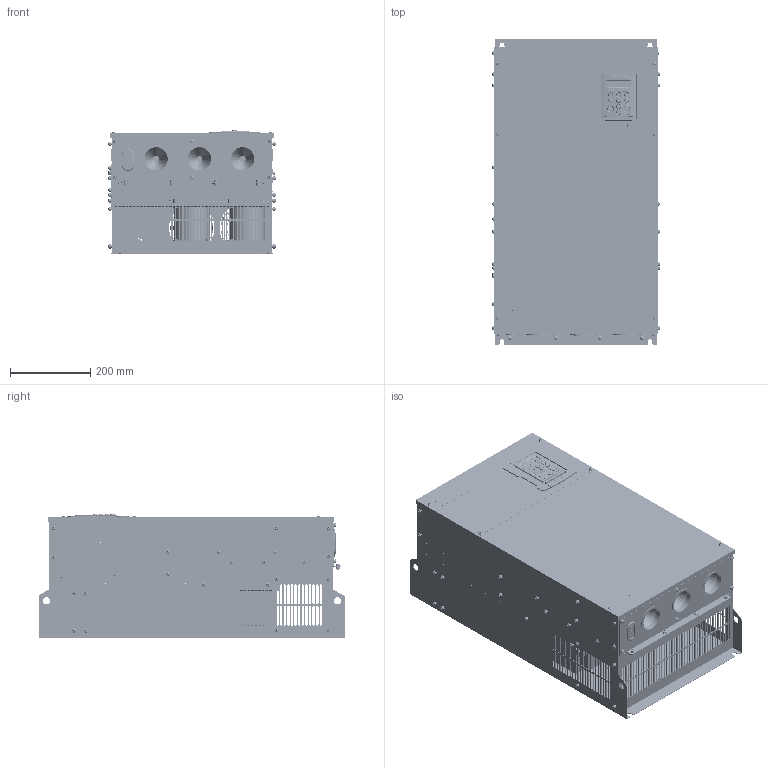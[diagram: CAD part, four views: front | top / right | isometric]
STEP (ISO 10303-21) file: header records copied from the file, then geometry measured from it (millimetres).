
FILE_DESCRIPTION(/* description */ ('','CAx-IF Rec.Pracs.---Representation and Presentation of Product Manufacturing Information (PMI)---4.0---2014-10-13'),/* implementation_level */ '2;1');
FILE_NAME(/* name */ 'C:\Users\943103\Desktop\Part234.stp',/* time_stamp */ '2023-09-25T21:11:02+01:00',/* author */ ('943103'),/* organization */ (''),/* preprocessor_version */ 'ST-DEVELOPER v18',/* originating_system */ 'Autodesk Inventor 2020',/* authorisation */ '');
FILE_SCHEMA (('AP242_MANAGED_MODEL_BASED_3D_ENGINEERING_MIM_LF { 1 0 10303 442 1 1 4 }'));
Products named in the file (1): Part234
Bounding box: 417.86 x 765 x 307.62 mm (x, y, z)
Surface area: 8857369.2 mm2 (no closed solid volume)
Topology: 0 solids, 1 shells, 22153 faces, 61973 edges, 41027 vertices
Faces by surface type: plane 14104, cylinder 3977, bspline 2852, cone 736, torus 367, sphere 117
Full cylindrical faces by diameter (mm): 0.6 x5, 0.994 x9, 1.4 x12, 1.45 x20, 1.5 x26, 1.888 x4, 2 x23, 2.18 x43, 2.2 x4, 2.5 x4, 2.8 x20, 2.9 x23, 3 x19, 3.091 x108, 3.1 x6, 3.2 x3, 3.5 x5, 3.68 x6, 4 x327, 4.064 x2, 4.2 x12, 4.334 x8, 4.4 x6, 4.5 x6, 4.6 x64, 4.8 x1, 5 x171, 5.4 x4, 5.5 x95, 5.841 x10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
Entity records: 930571 total; most frequent: CARTESIAN_POINT 336114, ORIENTED_EDGE 124032, DIRECTION 111097, EDGE_CURVE 62016, LINE 41415, VECTOR 41415, VERTEX_POINT 41043, AXIS2_PLACEMENT_3D 34841
